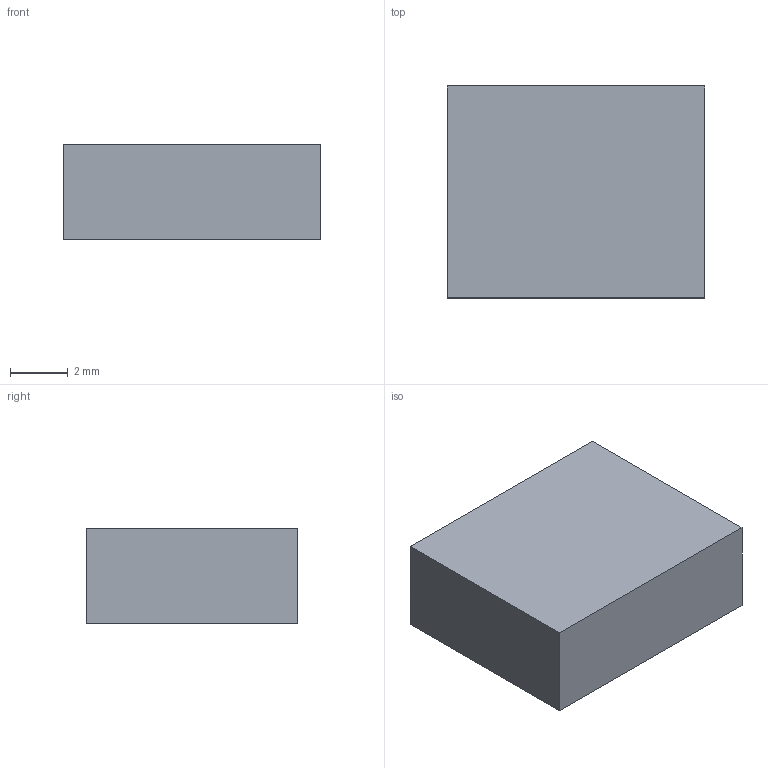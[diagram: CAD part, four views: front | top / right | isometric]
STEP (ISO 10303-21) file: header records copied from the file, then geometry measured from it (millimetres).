
FILE_DESCRIPTION(('Open CASCADE Model'),'2;1');
FILE_NAME('Open CASCADE Shape Model','2026-10-16T20:10:47',('Author'),( 'Open CASCADE'),'Open CASCADE STEP processor 7.9','Open CASCADE 7.9' ,'Unknown');
FILE_SCHEMA(('AUTOMOTIVE_DESIGN { 1 0 10303 214 1 1 1 1 }'));
Length unit declared in the file: millimetre
Products named in the file (1): Open CASCADE STEP translator 7.9 72
Bounding box: 8.94 x 7.35 x 3.31 mm (x, y, z)
Volume: 217.5 mm3; surface area: 239.3 mm2
Topology: 1 solids, 1 shells, 6 faces, 12 edges, 8 vertices
Faces by surface type: plane 6
Entity records: 322 total; most frequent: CARTESIAN_POINT 51, DIRECTION 50, LINE 36, VECTOR 36, ORIENTED_EDGE 24, PCURVE 24, DEFINITIONAL_REPRESENTATION 24, EDGE_CURVE 12
